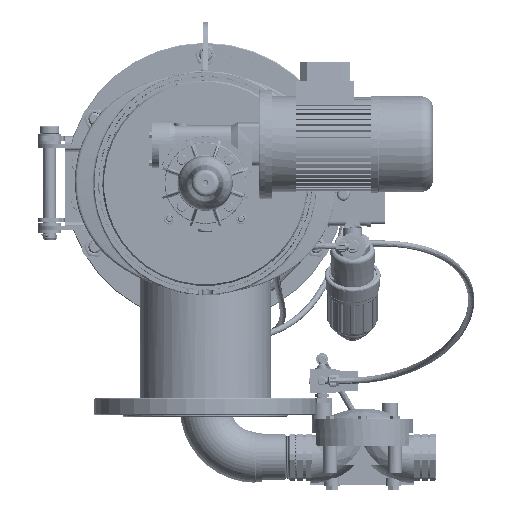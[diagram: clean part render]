
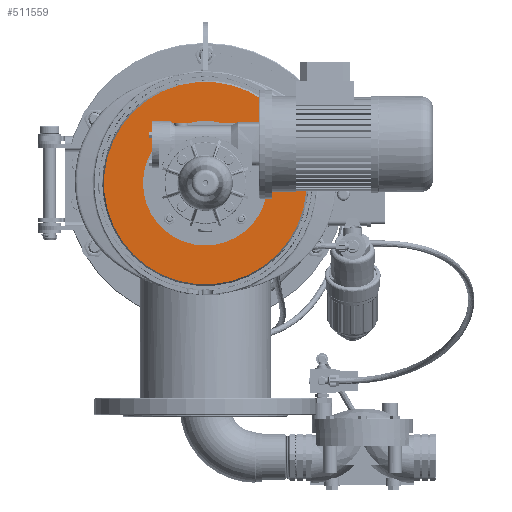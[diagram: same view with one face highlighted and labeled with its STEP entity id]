
A CAD part, left-side view. The second image highlights one B-rep face of the part: STEP entity #511559.
In plain terms, the highlighted planar face has unit normal (-1, 0, 0).
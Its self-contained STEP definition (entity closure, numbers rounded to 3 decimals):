
#8339 = CARTESIAN_POINT ( 'NONE',  ( 495.198, -22.981, -22.981 ) ) ;
#9952 = CARTESIAN_POINT ( 'NONE',  ( 495.198, 0., 0. ) ) ;
#11911 = CARTESIAN_POINT ( 'NONE',  ( 495.198, 18.385, -18.385 ) ) ;
#17393 = AXIS2_PLACEMENT_3D ( 'NONE', #393903, #34711, #447959 ) ;
#18532 = CIRCLE ( 'NONE', #105255, 3.75 ) ;
#29734 = EDGE_CURVE ( 'NONE', #576075, #576075, #18532, .T. ) ;
#33110 = EDGE_LOOP ( 'NONE', ( #64659 ) ) ;
#33125 = ORIENTED_EDGE ( 'NONE', *, *, #110090, .T. ) ;
#34711 = DIRECTION ( 'NONE',  ( 1., 0., 0. ) ) ;
#38309 = AXIS2_PLACEMENT_3D ( 'NONE', #298720, #390539, #393855 ) ;
#50520 = CARTESIAN_POINT ( 'NONE',  ( 495.198, 91.924, -91.924 ) ) ;
#53069 = CARTESIAN_POINT ( 'NONE',  ( 495.198, 0., 0. ) ) ;
#61366 = DIRECTION ( 'NONE',  ( 0., -0.707, 0.707 ) ) ;
#64433 = CARTESIAN_POINT ( 'NONE',  ( 495.198, -91.924, -91.924 ) ) ;
#64623 = CARTESIAN_POINT ( 'NONE',  ( 495.198, 42.603, 49.321 ) ) ;
#64659 = ORIENTED_EDGE ( 'NONE', *, *, #407351, .T. ) ;
#72249 = ORIENTED_EDGE ( 'NONE', *, *, #270587, .F. ) ;
#73109 = EDGE_LOOP ( 'NONE', ( #72249 ) ) ;
#75685 = AXIS2_PLACEMENT_3D ( 'NONE', #255633, #299702, #455531 ) ;
#77042 = CARTESIAN_POINT ( 'NONE',  ( 495.198, -8.412, 31.393 ) ) ;
#79134 = EDGE_LOOP ( 'NONE', ( #33125 ) ) ;
#80416 = CARTESIAN_POINT ( 'NONE',  ( 495.198, 42.603, -42.603 ) ) ;
#90878 = EDGE_LOOP ( 'NONE', ( #484103 ) ) ;
#94136 = ORIENTED_EDGE ( 'NONE', *, *, #446422, .T. ) ;
#101999 = FACE_BOUND ( 'NONE', #73109, .T. ) ;
#102433 = AXIS2_PLACEMENT_3D ( 'NONE', #64433, #582311, #578943 ) ;
#105255 = AXIS2_PLACEMENT_3D ( 'NONE', #77042, #347973, #337959 ) ;
#107288 = DIRECTION ( 'NONE',  ( 0., 0.707, -0.707 ) ) ;
#110090 = EDGE_CURVE ( 'NONE', #169257, #169257, #504269, .T. ) ;
#118860 = DIRECTION ( 'NONE',  ( 1., 0., 0. ) ) ;
#119896 = CIRCLE ( 'NONE', #444297, 3.75 ) ;
#127422 = CIRCLE ( 'NONE', #387130, 26. ) ;
#129617 = CARTESIAN_POINT ( 'NONE',  ( 495.198, 28.741, -5.76 ) ) ;
#149416 = FACE_OUTER_BOUND ( 'NONE', #90878, .T. ) ;
#159300 = FACE_BOUND ( 'NONE', #33110, .T. ) ;
#161837 = ORIENTED_EDGE ( 'NONE', *, *, #29734, .T. ) ;
#162652 = FACE_BOUND ( 'NONE', #333204, .T. ) ;
#169257 = VERTEX_POINT ( 'NONE', #382621 ) ;
#203496 = FACE_BOUND ( 'NONE', #389970, .T. ) ;
#210359 = VERTEX_POINT ( 'NONE', #64623 ) ;
#255633 = CARTESIAN_POINT ( 'NONE',  ( 495.198, 45.962, -45.962 ) ) ;
#259607 = DIRECTION ( 'NONE',  ( -1., 0., 0. ) ) ;
#269233 = DIRECTION ( 'NONE',  ( 1., 0., 0. ) ) ;
#270321 = DIRECTION ( 'NONE',  ( 0., -0.707, 0.707 ) ) ;
#270587 = EDGE_CURVE ( 'NONE', #624817, #624817, #127422, .T. ) ;
#281310 = CARTESIAN_POINT ( 'NONE',  ( 495.198, -11.063, 34.044 ) ) ;
#287503 = AXIS2_PLACEMENT_3D ( 'NONE', #53069, #259607, #107288 ) ;
#298720 = CARTESIAN_POINT ( 'NONE',  ( 495.198, -45.962, 45.962 ) ) ;
#299702 = DIRECTION ( 'NONE',  ( 1., 0., 0. ) ) ;
#330833 = ORIENTED_EDGE ( 'NONE', *, *, #544244, .T. ) ;
#333069 = EDGE_LOOP ( 'NONE', ( #606070 ) ) ;
#333204 = EDGE_LOOP ( 'NONE', ( #94136 ) ) ;
#335143 = CIRCLE ( 'NONE', #529308, 4.75 ) ;
#337959 = DIRECTION ( 'NONE',  ( 0., -0.707, 0.707 ) ) ;
#343912 = CARTESIAN_POINT ( 'NONE',  ( 495.198, -25.633, -20.329 ) ) ;
#344584 = EDGE_CURVE ( 'NONE', #645685, #645685, #367825, .T. ) ;
#347973 = DIRECTION ( 'NONE',  ( 1., 0., 0. ) ) ;
#352345 = CIRCLE ( 'NONE', #38309, 4.75 ) ;
#353068 = CIRCLE ( 'NONE', #287503, 130. ) ;
#356164 = PLANE ( 'NONE',  #102433 ) ;
#362792 = FACE_BOUND ( 'NONE', #333069, .T. ) ;
#367825 = CIRCLE ( 'NONE', #75685, 4.75 ) ;
#369450 = FACE_BOUND ( 'NONE', #484686, .T. ) ;
#382621 = CARTESIAN_POINT ( 'NONE',  ( 495.198, -49.321, -42.603 ) ) ;
#383063 = VERTEX_POINT ( 'NONE', #443799 ) ;
#387130 = AXIS2_PLACEMENT_3D ( 'NONE', #9952, #622921, #423416 ) ;
#389970 = EDGE_LOOP ( 'NONE', ( #575671 ) ) ;
#390539 = DIRECTION ( 'NONE',  ( 1., 0., 0. ) ) ;
#393855 = DIRECTION ( 'NONE',  ( 0., -0.707, 0.707 ) ) ;
#393903 = CARTESIAN_POINT ( 'NONE',  ( 495.198, -45.962, -45.962 ) ) ;
#397113 = CARTESIAN_POINT ( 'NONE',  ( 495.198, 45.962, 45.962 ) ) ;
#407351 = EDGE_CURVE ( 'NONE', #640805, #640805, #548619, .T. ) ;
#417206 = CARTESIAN_POINT ( 'NONE',  ( 495.198, 31.393, -8.412 ) ) ;
#420314 = FACE_BOUND ( 'NONE', #618705, .T. ) ;
#423416 = DIRECTION ( 'NONE',  ( 0., 0.707, -0.707 ) ) ;
#438775 = VERTEX_POINT ( 'NONE', #343912 ) ;
#443799 = CARTESIAN_POINT ( 'NONE',  ( 495.198, -49.321, 49.321 ) ) ;
#444297 = AXIS2_PLACEMENT_3D ( 'NONE', #8339, #269233, #526565 ) ;
#446422 = EDGE_CURVE ( 'NONE', #210359, #210359, #335143, .T. ) ;
#447959 = DIRECTION ( 'NONE',  ( 0., -0.707, 0.707 ) ) ;
#455531 = DIRECTION ( 'NONE',  ( 0., -0.707, 0.707 ) ) ;
#472595 = EDGE_CURVE ( 'NONE', #615870, #615870, #353068, .T. ) ;
#484103 = ORIENTED_EDGE ( 'NONE', *, *, #472595, .T. ) ;
#484686 = EDGE_LOOP ( 'NONE', ( #161837 ) ) ;
#504269 = CIRCLE ( 'NONE', #17393, 4.75 ) ;
#511559 = ADVANCED_FACE ( 'NONE', ( #162652, #420314, #369450, #159300, #362792, #613171, #203496, #101999, #149416 ), #356164, .F. ) ;
#520349 = EDGE_CURVE ( 'NONE', #438775, #438775, #119896, .T. ) ;
#526565 = DIRECTION ( 'NONE',  ( 0., -0.707, 0.707 ) ) ;
#529308 = AXIS2_PLACEMENT_3D ( 'NONE', #397113, #603323, #270321 ) ;
#544244 = EDGE_CURVE ( 'NONE', #383063, #383063, #352345, .T. ) ;
#548619 = CIRCLE ( 'NONE', #667501, 3.75 ) ;
#575671 = ORIENTED_EDGE ( 'NONE', *, *, #520349, .T. ) ;
#576075 = VERTEX_POINT ( 'NONE', #281310 ) ;
#578943 = DIRECTION ( 'NONE',  ( 0., -0.707, 0.707 ) ) ;
#582311 = DIRECTION ( 'NONE',  ( 1., 0., 0. ) ) ;
#603323 = DIRECTION ( 'NONE',  ( 1., 0., 0. ) ) ;
#606070 = ORIENTED_EDGE ( 'NONE', *, *, #344584, .T. ) ;
#613171 = FACE_BOUND ( 'NONE', #79134, .T. ) ;
#615870 = VERTEX_POINT ( 'NONE', #50520 ) ;
#618705 = EDGE_LOOP ( 'NONE', ( #330833 ) ) ;
#622921 = DIRECTION ( 'NONE',  ( -1., 0., 0. ) ) ;
#624817 = VERTEX_POINT ( 'NONE', #11911 ) ;
#640805 = VERTEX_POINT ( 'NONE', #129617 ) ;
#645685 = VERTEX_POINT ( 'NONE', #80416 ) ;
#667501 = AXIS2_PLACEMENT_3D ( 'NONE', #417206, #118860, #61366 ) ;
